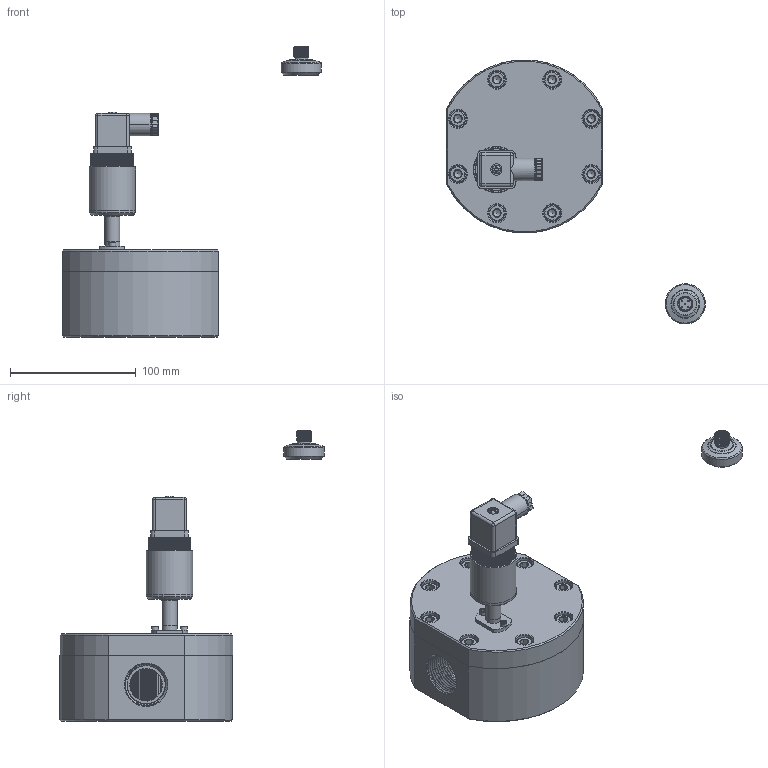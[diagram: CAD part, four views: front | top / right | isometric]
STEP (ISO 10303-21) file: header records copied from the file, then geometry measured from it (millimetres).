
FILE_DESCRIPTION( (''), '2;1');
FILE_NAME( 'QZKD_M25_G1_DIN-plug.step', '2024-06-05T08:07:10+08:00', (''), (''), '', '', '');
FILE_SCHEMA (('AUTOMOTIVE_DESIGN { 1 0 10303 214 3 1 1 1 }'));
Products named in the file (1): QZKD M25_G1_DIN-plug
Bounding box: 206.03 x 210.5 x 231.15 mm (x, y, z)
Volume: 921129.2 mm3; surface area: 186207.6 mm2
Topology: 21 solids, 22 shells, 2953 faces, 8212 edges, 5359 vertices
Faces by surface type: plane 2268, cylinder 490, cone 135, torus 27, bspline 22, sphere 9, extrusion 2
Full cylindrical faces by diameter (mm): 1 x5, 2.874 x2, 3.5 x2, 5.5 x2, 6.8 x10, 7.76 x8, 8 x12, 8.5 x8, 9.8 x1, 10 x2, 10.5 x9, 11 x2, 12 x2, 13 x8, 14 x10, 16.5 x2, 18 x1, 20 x1, 22 x3, 23 x1, 25 x1, 26 x3, 26.6 x1, 31.5 x1, 32 x1, 33 x2, 37 x2
Entity records: 100439 total; most frequent: CARTESIAN_POINT 25446, ORIENTED_EDGE 15850, DIRECTION 14690, EDGE_CURVE 7925, VECTOR 6640, LINE 6638, VERTEX_POINT 5304, AXIS2_PLACEMENT_3D 4025
